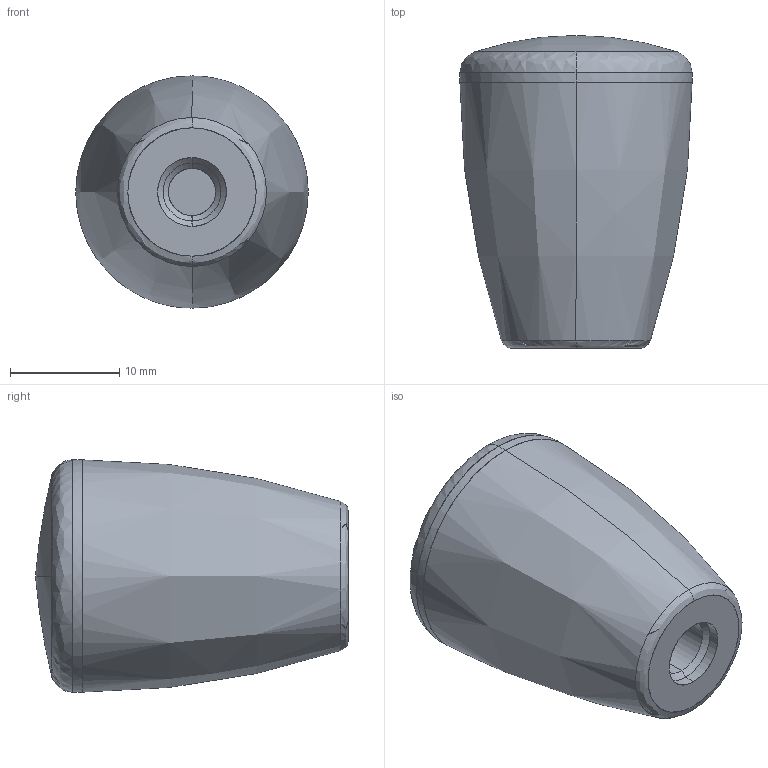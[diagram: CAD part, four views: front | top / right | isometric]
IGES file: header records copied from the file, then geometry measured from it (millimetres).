
Global section: file name: C:\Users\GerFlow\Downloads\tdn-20190924T202732Z-001\tdn\47000721101\47000721101.igs; native system: NX V12.0; preprocessor: SIEMENS PLM Software NX 12.0; date: 20190924.225218; units: millimetre
Bounding box: 21.3 x 28.7 x 21.3 mm (x, y, z)
Surface area: 2354.8 mm2 (no closed solid volume)
Topology: 0 solids, 0 shells, 20 faces, 102 edges, 102 vertices
Faces by surface type: bspline 20
